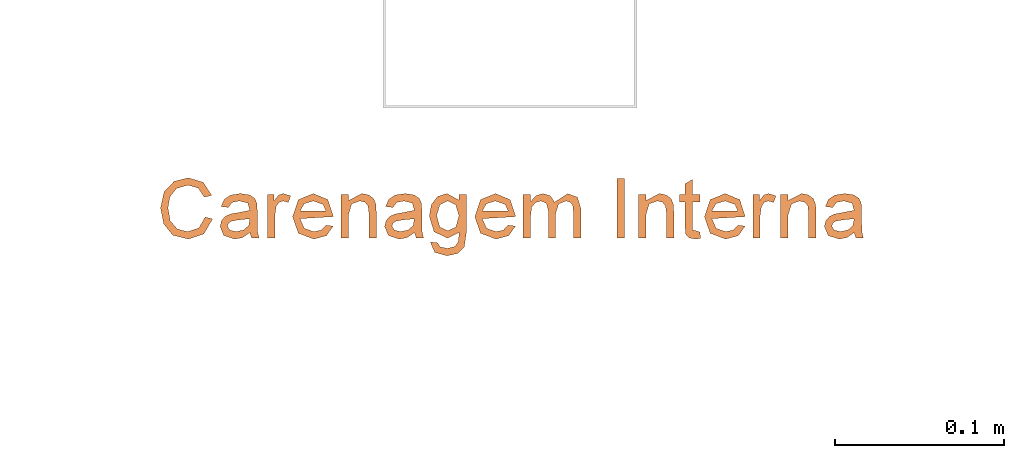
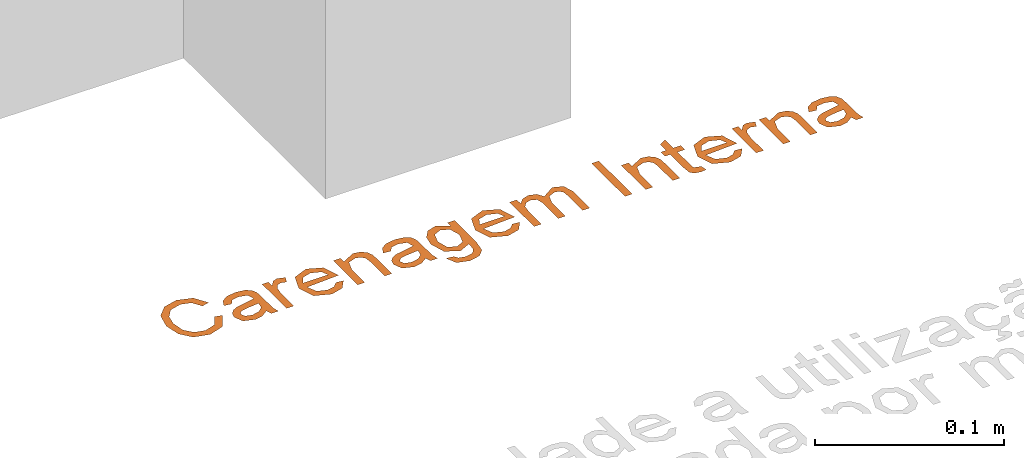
# One storey, part 5 of 5: 1 proxy.
"""IFC2X3 building model written with IfcOpenShell, lengths in millimetres."""

from ifc_helpers import new_model, entity, si_unit, converted_unit, derived_unit, direction, frame, origin, place, context, subcontext, project, spatial, face_set, surface_model, type_object, element, save


model = new_model("IFC2X3")

# Units and contexts
model_context = context("Model", 3, precision=0.01, world=origin(), true_north=direction((6.12303176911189e-17, 1.0)))
body_context = subcontext(model_context, "Body", "Model", "MODEL_VIEW")
ifc_project = project(units=[si_unit("LENGTHUNIT", "METRE", prefix="MILLI"), si_unit("AREAUNIT", "SQUARE_METRE"), si_unit("VOLUMEUNIT", "CUBIC_METRE"), converted_unit("PLANEANGLEUNIT", "DEGREE", entity("IfcRatioMeasure", 0.0174532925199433), si_unit("PLANEANGLEUNIT", "RADIAN"), dimensions=[0, 0, 0, 0, 0, 0, 0]), si_unit("MASSUNIT", "GRAM", prefix="KILO"), derived_unit("MASSDENSITYUNIT", [(si_unit("MASSUNIT", "GRAM", prefix="KILO"), 1), (si_unit("LENGTHUNIT", "METRE"), -3)]), derived_unit("MOMENTOFINERTIAUNIT", [(si_unit("LENGTHUNIT", "METRE"), 4)]), si_unit("TIMEUNIT", "SECOND"), si_unit("FREQUENCYUNIT", "HERTZ"), si_unit("THERMODYNAMICTEMPERATUREUNIT", "DEGREE_CELSIUS"), derived_unit("THERMALTRANSMITTANCEUNIT", [(si_unit("MASSUNIT", "GRAM", prefix="KILO"), 1), (si_unit("THERMODYNAMICTEMPERATUREUNIT", "KELVIN"), -1), (si_unit("TIMEUNIT", "SECOND"), -3)]), derived_unit("VOLUMETRICFLOWRATEUNIT", [(si_unit("LENGTHUNIT", "METRE"), 3), (si_unit("TIMEUNIT", "SECOND"), -1)]), si_unit("ELECTRICCURRENTUNIT", "AMPERE"), si_unit("ELECTRICVOLTAGEUNIT", "VOLT"), si_unit("POWERUNIT", "WATT"), si_unit("FORCEUNIT", "NEWTON", prefix="KILO"), si_unit("ILLUMINANCEUNIT", "LUX"), si_unit("LUMINOUSFLUXUNIT", "LUMEN"), si_unit("LUMINOUSINTENSITYUNIT", "CANDELA"), derived_unit("USERDEFINED", [(si_unit("MASSUNIT", "GRAM", prefix="KILO"), -1), (si_unit("LENGTHUNIT", "METRE"), -2), (si_unit("TIMEUNIT", "SECOND"), 3), (si_unit("LUMINOUSFLUXUNIT", "LUMEN"), 1)]), derived_unit("LINEARVELOCITYUNIT", [(si_unit("LENGTHUNIT", "METRE"), 1), (si_unit("TIMEUNIT", "SECOND"), -1)]), si_unit("PRESSUREUNIT", "PASCAL"), derived_unit("USERDEFINED", [(si_unit("LENGTHUNIT", "METRE"), -2), (si_unit("MASSUNIT", "GRAM", prefix="KILO"), 1), (si_unit("TIMEUNIT", "SECOND"), -2)]), derived_unit("LINEARFORCEUNIT", [(si_unit("MASSUNIT", "GRAM", prefix="KILO"), 1), (si_unit("LENGTHUNIT", "METRE"), 1), (si_unit("TIMEUNIT", "SECOND"), -2), (si_unit("LENGTHUNIT", "METRE"), -1)]), derived_unit("PLANARFORCEUNIT", [(si_unit("MASSUNIT", "GRAM", prefix="KILO"), 1), (si_unit("LENGTHUNIT", "METRE"), 1), (si_unit("TIMEUNIT", "SECOND"), -2), (si_unit("LENGTHUNIT", "METRE"), -2)])], contexts=[model_context])

# Site, building, storey
site_placement = place(None, origin())
site = spatial("IfcSite", under=ifc_project, at=site_placement, Name="Default", CompositionType="ELEMENT")
building_placement = place(site_placement, origin())
building = spatial("IfcBuilding", under=site, at=building_placement, CompositionType="ELEMENT")
storey_placement = place(building_placement, origin())
storey = spatial("IfcBuildingStorey", under=building, at=storey_placement, Name="Vista Principal", CompositionType="ELEMENT", Elevation=0.0)

# Proxy
building_element_proxy_type = type_object("IfcBuildingElementProxyType", Name="Texto do modelo:600mm Arial", PredefinedType="NOTDEFINED")
proxy_placement = place(storey_placement, frame((-10002.6714304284, 5328.07441846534, 0.0)))
element("IfcBuildingElementProxy", 1, at=proxy_placement, inside=storey, type_object=building_element_proxy_type, Name="Texto do modelo:600mm Arial", ObjectType="Texto do modelo:600mm Arial", context=body_context, shape_type="SurfaceModel", body=[
    surface_model("IfcFaceBasedSurfaceModel", [(26.3697814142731, 22.9362161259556, 0.0), (22.6400711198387, 16.4639455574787, 0.0), (15.9145751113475, 14.2836315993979, 0.0), (9.85004042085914, 15.8845314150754, 0.0), (5.72117816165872, 20.7215665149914, 0.0), (4.39496356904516, 28.2925779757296, 0.0), (5.51516424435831, 34.8249359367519, 0.0), (9.39938497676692, 39.8722769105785, 0.0), (16.2750994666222, 41.7521539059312, 0.0), (22.2151674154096, 40.0568310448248, 0.0), (25.8204109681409, 34.653257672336, 0.0), (30.2153745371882, 35.7004950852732, 0.0), (25.24958073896, 43.408849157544, 0.0), (16.446777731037, 46.1471174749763, 0.0), (8.00020712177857, 44.031182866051, 0.0), (2.08159895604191, 37.8378894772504, 0.0), (0.0, 28.2839940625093, 0.0), (1.84124938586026, 18.8846090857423, 0.0), (7.20619514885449, 12.1977406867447, 0.0), (16.3523546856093, 9.88866803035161, 0.0), (25.5543096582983, 12.9402491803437, 0.0), (30.7647449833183, 21.803139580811, 0.0), (52.7395628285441, 13.7342611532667, 0.0), (53.8383037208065, 10.4380384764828, 0.0), (58.2332672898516, 10.4380384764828, 0.0), (57.3577081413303, 14.1334131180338, 0.0), (57.1345263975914, 21.7688039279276, 0.0), (57.1345263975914, 27.236756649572, 0.0), (56.9199285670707, 31.082349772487, 0.0), (55.5722541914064, 34.0652596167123, 0.0), (52.5635926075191, 36.0266837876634, 0.0), (47.2372744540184, 36.8078198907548, 0.0), (41.4388410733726, 35.9236768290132, 0.0), (37.6104157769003, 33.4085902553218, 0.0), (35.7090789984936, 29.1166336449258, 0.0), (40.1040425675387, 28.5672631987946, 0.0), (42.2242691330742, 31.5673408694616, 0.0), (46.6707361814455, 32.4128563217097, 0.0), (51.5292310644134, 31.1424371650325, 0.0), (52.7138110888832, 26.9191518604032, 0.0), (45.0912961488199, 25.4083831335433, 0.0), (41.2886225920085, 24.7474218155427, 0.0), (38.2112897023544, 23.3053243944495, 0.0), (36.0009320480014, 20.7816539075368, 0.0), (35.1597085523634, 17.3051690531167, 0.0), (37.3872340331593, 11.9745589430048, 0.0), (43.7693735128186, 9.88866803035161, 0.0), (48.4776499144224, 10.7556432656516, 0.0), (52.7266869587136, 21.9018545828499, 0.0), (52.0185141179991, 17.8802912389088, 0.0), (49.1514871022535, 15.3351609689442, 0.0), (44.7050200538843, 14.2836315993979, 0.0), (40.8637188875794, 15.2364459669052, 0.0), (39.5546721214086, 17.6141899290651, 0.0), (40.1555460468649, 19.3052208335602, 0.0), (41.8680367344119, 20.464049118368, 0.0), (45.6492505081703, 21.1765139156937, 0.0), (63.1776013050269, 10.4380384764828, 0.0), (67.5725648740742, 10.4380384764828, 0.0), (67.5725648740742, 24.0092052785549, 0.0), (68.2850296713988, 29.1423853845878, 0.0), (69.8687616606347, 31.5458810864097, 0.0), (72.3538045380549, 32.4128563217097, 0.0), (75.4440132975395, 31.5115454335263, 0.0), (76.9118624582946, 35.4515616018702, 0.0), (72.4997310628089, 36.8078198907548, 0.0), (69.752878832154, 35.9580124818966, 0.0), (67.0231944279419, 32.4386080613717, 0.0), (67.0231944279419, 36.2584494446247, 0.0), (63.1776013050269, 36.2584494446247, 0.0), (97.7364359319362, 18.1292247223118, 0.0), (94.9037445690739, 15.2021103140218, 0.0), (90.5946201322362, 14.2836315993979, 0.0), (84.933529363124, 16.2665155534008, 0.0), (82.4055669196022, 21.9748178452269, 0.0), (102.182902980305, 23.1593978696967, 0.0), (98.8480526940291, 33.2283280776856, 0.0), (90.2598475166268, 36.8078198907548, 0.0), (81.4184168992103, 33.2197441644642, 0.0), (78.010603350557, 23.1336461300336, 0.0), (81.3840812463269, 13.369444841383, 0.0), (90.5087810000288, 9.88866803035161, 0.0), (98.0154131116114, 11.905887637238, 0.0), (102.045560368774, 17.5798542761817, 0.0), (82.4055669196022, 26.369781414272, 0.0), (84.8305224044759, 30.7690369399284, 0.0), (90.242679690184, 32.4128563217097, 0.0), (96.0282372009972, 30.3527171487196, 0.0), (97.7879394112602, 26.369781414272, 0.0), (106.577866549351, 10.4380384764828, 0.0), (110.972830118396, 10.4380384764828, 0.0), (110.972830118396, 24.1379639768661, 0.0), (112.977173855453, 30.6874897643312, 0.0), (117.745537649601, 32.4128563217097, 0.0), (120.762783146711, 31.6445960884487, 0.0), (122.552529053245, 29.5887488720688, 0.0), (123.058979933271, 25.7002361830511, 0.0), (123.058979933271, 10.4380384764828, 0.0), (127.453943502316, 10.4380384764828, 0.0), (127.453943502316, 26.2925261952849, 0.0), (127.222177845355, 30.5415632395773, 0.0), (125.904547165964, 33.7734065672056, 0.0), (123.071855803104, 35.9708883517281, 0.0), (118.92153376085, 36.8078198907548, 0.0), (110.972830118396, 32.6532058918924, 0.0), (110.972830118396, 36.2584494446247, 0.0), (106.577866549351, 36.2584494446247, 0.0), (149.978131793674, 13.7342611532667, 0.0), (151.076872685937, 10.4380384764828, 0.0), (155.471836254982, 10.4380384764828, 0.0), (154.59627710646, 14.1334131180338, 0.0), (154.373095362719, 21.7688039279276, 0.0), (154.373095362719, 27.236756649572, 0.0), (154.158497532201, 31.082349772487, 0.0), (152.810823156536, 34.0652596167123, 0.0), (149.802161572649, 36.0266837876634, 0.0), (144.475843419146, 36.8078198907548, 0.0), (138.677410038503, 35.9236768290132, 0.0), (134.848984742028, 33.4085902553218, 0.0), (132.947647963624, 29.1166336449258, 0.0), (137.342611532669, 28.5672631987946, 0.0), (139.462838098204, 31.5673408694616, 0.0), (143.909305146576, 32.4128563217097, 0.0), (148.767800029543, 31.1424371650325, 0.0), (149.952380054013, 26.9191518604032, 0.0), (142.32986511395, 25.4083831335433, 0.0), (138.527191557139, 24.7474218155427, 0.0), (135.449858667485, 23.3053243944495, 0.0), (133.239501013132, 20.7816539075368, 0.0), (132.398277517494, 17.3051690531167, 0.0), (134.625802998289, 11.9745589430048, 0.0), (141.007942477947, 9.88866803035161, 0.0), (145.716218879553, 10.7556432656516, 0.0), (149.965255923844, 21.9018545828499, 0.0), (149.257083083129, 17.8802912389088, 0.0), (146.390056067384, 15.3351609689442, 0.0), (141.943589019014, 14.2836315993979, 0.0), (138.10228785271, 15.2364459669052, 0.0), (136.793241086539, 17.6141899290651, 0.0), (137.394115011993, 19.3052208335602, 0.0), (139.106605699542, 20.464049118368, 0.0), (142.8878194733, 21.1765139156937, 0.0), (159.317429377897, 8.24055669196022, 0.0), (162.008486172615, 2.0558472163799, 0.0), (169.317688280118, 0.0, 0.0), (175.734163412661, 1.45926524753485, 0.0), (179.541128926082, 5.42932511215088, 0.0), (180.742876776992, 13.966026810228, 0.0), (180.742876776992, 36.2584494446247, 0.0), (176.347913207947, 36.2584494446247, 0.0), (176.347913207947, 32.9622267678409, 0.0), (169.266184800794, 36.8078198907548, 0.0), (163.665181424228, 35.1082050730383, 0.0), (160.025602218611, 30.2883377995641, 0.0), (158.768058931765, 23.4770026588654, 0.0), (161.570706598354, 14.2750476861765, 0.0), (169.480782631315, 10.4380384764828, 0.0), (176.347913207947, 13.7342611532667, 0.0), (176.047476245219, 8.60966496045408, 0.0), (173.901497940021, 5.50228837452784, 0.0), (169.403527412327, 4.39496356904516, 0.0), (165.137322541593, 5.37352967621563, 0.0), (163.712392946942, 7.69118624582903, 0.0), (163.163022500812, 23.7774396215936, 0.0), (165.064359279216, 30.236834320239, 0.0), (169.678212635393, 32.4128563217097, 0.0), (174.390780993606, 30.2024986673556, 0.0), (176.347913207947, 23.6486809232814, 0.0), (174.446576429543, 16.9618125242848, 0.0), (169.746883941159, 14.833002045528, 0.0), (165.038607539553, 16.9746883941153, 0.0), (205.413043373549, 18.1292247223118, 0.0), (202.580352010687, 15.2021103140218, 0.0), (198.271227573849, 14.2836315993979, 0.0), (192.610136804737, 16.2665155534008, 0.0), (190.082174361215, 21.9748178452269, 0.0), (209.859510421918, 23.1593978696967, 0.0), (206.52466013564, 33.2283280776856, 0.0), (197.936454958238, 36.8078198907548, 0.0), (189.095024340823, 33.2197441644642, 0.0), (185.687210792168, 23.1336461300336, 0.0), (189.06068868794, 13.369444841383, 0.0), (198.185388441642, 9.88866803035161, 0.0), (205.692020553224, 11.905887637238, 0.0), (209.722167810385, 17.5798542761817, 0.0), (190.082174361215, 26.369781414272, 0.0), (192.507129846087, 30.7690369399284, 0.0), (197.919287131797, 32.4128563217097, 0.0), (203.70484464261, 30.3527171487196, 0.0), (205.464546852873, 26.369781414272, 0.0), (214.254473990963, 10.4380384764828, 0.0), (218.649437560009, 10.4380384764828, 0.0), (218.649437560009, 23.4598348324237, 0.0), (219.318982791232, 28.7046058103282, 0.0), (221.482128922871, 31.4686258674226, 0.0), (224.73543203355, 32.4128563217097, 0.0), (228.070282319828, 30.9965106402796, 0.0), (229.087476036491, 26.738889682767, 0.0), (229.087476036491, 10.4380384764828, 0.0), (233.482439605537, 10.4380384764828, 0.0), (233.482439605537, 25.0135231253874, 0.0), (235.203514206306, 30.6531541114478, 0.0), (239.525514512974, 32.4128563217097, 0.0), (242.036309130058, 31.726143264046, 0.0), (243.512742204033, 29.9192295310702, 0.0), (243.920478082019, 26.2496066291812, 0.0), (243.920478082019, 10.4380384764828, 0.0), (248.315441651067, 10.4380384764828, 0.0), (248.315441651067, 28.1380675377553, 0.0), (246.302514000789, 34.6833013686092, 0.0), (240.55558409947, 36.8078198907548, 0.0), (232.795726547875, 31.700391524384, 0.0), (230.375063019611, 35.4644374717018, 0.0), (225.971515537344, 36.8078198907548, 0.0), (221.670975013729, 35.4901892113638, 0.0), (218.649437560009, 32.0094124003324, 0.0), (218.649437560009, 36.2584494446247, 0.0), (214.254473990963, 36.2584494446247, 0.0), (269.740889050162, 10.4380384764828, 0.0), (274.135852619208, 10.4380384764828, 0.0), (274.135852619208, 45.5977470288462, 0.0), (269.740889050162, 45.5977470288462, 0.0), (282.376409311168, 10.4380384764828, 0.0), (286.771372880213, 10.4380384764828, 0.0), (286.771372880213, 24.1379639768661, 0.0), (288.775716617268, 30.6874897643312, 0.0), (293.544080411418, 32.4128563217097, 0.0), (296.561325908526, 31.6445960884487, 0.0), (298.351071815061, 29.5887488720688, 0.0), (298.857522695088, 25.7002361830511, 0.0), (298.857522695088, 10.4380384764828, 0.0), (303.252486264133, 10.4380384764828, 0.0), (303.252486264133, 26.2925261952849, 0.0), (303.020720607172, 30.5415632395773, 0.0), (301.703089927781, 33.7734065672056, 0.0), (298.870398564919, 35.9708883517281, 0.0), (294.720076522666, 36.8078198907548, 0.0), (286.771372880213, 32.6532058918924, 0.0), (286.771372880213, 36.2584494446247, 0.0), (282.376409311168, 36.2584494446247, 0.0), (318.634858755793, 14.1033694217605, 0.0), (314.471660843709, 15.3823724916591, 0.0), (314.239895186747, 17.6485255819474, 0.0), (314.239895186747, 31.8634858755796, 0.0), (318.634858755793, 31.8634858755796, 0.0), (318.634858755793, 36.2584494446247, 0.0), (314.239895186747, 36.2584494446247, 0.0), (314.239895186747, 45.1170478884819, 0.0), (309.844931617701, 42.5332900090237, 0.0), (309.844931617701, 36.2584494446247, 0.0), (306.548708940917, 36.2584494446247, 0.0), (306.548708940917, 31.8634858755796, 0.0), (309.844931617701, 31.8634858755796, 0.0), (309.844931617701, 17.5197668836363, 0.0), (310.377134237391, 12.5325133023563, 0.0), (312.21409166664, 10.618300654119, 0.0), (315.89659043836, 9.88866803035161, 0.0), (319.184229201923, 10.3092797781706, 0.0), (341.107543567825, 18.1292247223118, 0.0), (338.274852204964, 15.2021103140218, 0.0), (333.965727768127, 14.2836315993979, 0.0), (328.304636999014, 16.2665155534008, 0.0), (325.776674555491, 21.9748178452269, 0.0), (345.554010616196, 23.1593978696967, 0.0), (342.219160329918, 33.2283280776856, 0.0), (333.630955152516, 36.8078198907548, 0.0), (324.7895245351, 33.2197441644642, 0.0), (321.381710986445, 23.1336461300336, 0.0), (324.755188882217, 13.369444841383, 0.0), (333.879888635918, 9.88866803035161, 0.0), (341.386520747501, 11.905887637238, 0.0), (345.416668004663, 17.5798542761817, 0.0), (325.776674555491, 26.369781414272, 0.0), (328.201630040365, 30.7690369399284, 0.0), (333.613787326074, 32.4128563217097, 0.0), (339.399344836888, 30.3527171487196, 0.0), (341.15904704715, 26.369781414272, 0.0), (349.948974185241, 10.4380384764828, 0.0), (354.343937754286, 10.4380384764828, 0.0), (354.343937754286, 24.0092052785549, 0.0), (355.056402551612, 29.1423853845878, 0.0), (356.640134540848, 31.5458810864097, 0.0), (359.125177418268, 32.4128563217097, 0.0), (362.215386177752, 31.5115454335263, 0.0), (363.683235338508, 35.4515616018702, 0.0), (359.271103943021, 36.8078198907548, 0.0), (356.524251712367, 35.9580124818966, 0.0), (353.794567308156, 32.4386080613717, 0.0), (353.794567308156, 36.2584494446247, 0.0), (349.948974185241, 36.2584494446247, 0.0), (366.430087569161, 10.4380384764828, 0.0), (370.825051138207, 10.4380384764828, 0.0), (370.825051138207, 24.1379639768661, 0.0), (372.829394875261, 30.6874897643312, 0.0), (377.597758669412, 32.4128563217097, 0.0), (380.61500416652, 31.6445960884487, 0.0), (382.404750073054, 29.5887488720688, 0.0), (382.911200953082, 25.7002361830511, 0.0), (382.911200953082, 10.4380384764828, 0.0), (387.306164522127, 10.4380384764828, 0.0), (387.306164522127, 26.2925261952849, 0.0), (387.074398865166, 30.5415632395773, 0.0), (385.756768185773, 33.7734065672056, 0.0), (382.924076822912, 35.9708883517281, 0.0), (378.77375478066, 36.8078198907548, 0.0), (370.825051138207, 32.6532058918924, 0.0), (370.825051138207, 36.2584494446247, 0.0), (366.430087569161, 36.2584494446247, 0.0), (409.830352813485, 13.7342611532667, 0.0), (410.929093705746, 10.4380384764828, 0.0), (415.324057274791, 10.4380384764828, 0.0), (414.44849812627, 14.1334131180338, 0.0), (414.22531638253, 21.7688039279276, 0.0), (414.22531638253, 27.236756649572, 0.0), (414.010718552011, 31.082349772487, 0.0), (412.663044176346, 34.0652596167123, 0.0), (409.654382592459, 36.0266837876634, 0.0), (404.328064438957, 36.8078198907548, 0.0), (398.529631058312, 35.9236768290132, 0.0), (394.701205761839, 33.4085902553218, 0.0), (392.799868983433, 29.1166336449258, 0.0), (397.194832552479, 28.5672631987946, 0.0), (399.315059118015, 31.5673408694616, 0.0), (403.761526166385, 32.4128563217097, 0.0), (408.620021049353, 31.1424371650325, 0.0), (409.804601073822, 26.9191518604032, 0.0), (402.18208613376, 25.4083831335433, 0.0), (398.379412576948, 24.7474218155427, 0.0), (395.302079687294, 23.3053243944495, 0.0), (393.09172203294, 20.7816539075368, 0.0), (392.250498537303, 17.3051690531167, 0.0), (394.478024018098, 11.9745589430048, 0.0), (400.860163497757, 9.88866803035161, 0.0), (405.568439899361, 10.7556432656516, 0.0), (409.817476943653, 21.9018545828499, 0.0), (409.109304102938, 17.8802912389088, 0.0), (406.242277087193, 15.3351609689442, 0.0), (401.795810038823, 14.2836315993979, 0.0), (397.954508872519, 15.2364459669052, 0.0), (396.645462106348, 17.6141899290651, 0.0), (397.246336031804, 19.3052208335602, 0.0), (398.958826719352, 20.464049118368, 0.0), (402.74004049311, 21.1765139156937, 0.0)], [face_set([[[0, 1, 2, 3, 4, 5, 6, 7, 8, 9, 10, 11, 12, 13, 14, 15, 16, 17, 18, 19, 20, 21]]]), face_set([[[22, 23, 24, 25, 26, 27, 28, 29, 30, 31, 32, 33, 34, 35, 36, 37, 38, 39, 40, 41, 42, 43, 44, 45, 46, 47], [48, 49, 50, 51, 52, 53, 54, 55, 56]]]), face_set([[[57, 58, 59, 60, 61, 62, 63, 64, 65, 66, 67, 68, 69]]]), face_set([[[70, 71, 72, 73, 74, 75, 76, 77, 78, 79, 80, 81, 82, 83], [84, 85, 86, 87, 88]]]), face_set([[[89, 90, 91, 92, 93, 94, 95, 96, 97, 98, 99, 100, 101, 102, 103, 104, 105, 106]]]), face_set([[[107, 108, 109, 110, 111, 112, 113, 114, 115, 116, 117, 118, 119, 120, 121, 122, 123, 124, 125, 126, 127, 128, 129, 130, 131, 132], [133, 134, 135, 136, 137, 138, 139, 140, 141]]]), face_set([[[142, 143, 144, 145, 146, 147, 148, 149, 150, 151, 152, 153, 154, 155, 156, 157, 158, 159, 160, 161, 162], [163, 164, 165, 166, 167, 168, 169, 170]]]), face_set([[[171, 172, 173, 174, 175, 176, 177, 178, 179, 180, 181, 182, 183, 184], [185, 186, 187, 188, 189]]]), face_set([[[190, 191, 192, 193, 194, 195, 196, 197, 198, 199, 200, 201, 202, 203, 204, 205, 206, 207, 208, 209, 210, 211, 212, 213, 214, 215, 216, 217]]]), face_set([[[218, 219, 220, 221]]]), face_set([[[222, 223, 224, 225, 226, 227, 228, 229, 230, 231, 232, 233, 234, 235, 236, 237, 238, 239]]]), face_set([[[240, 241, 242, 243, 244, 245, 246, 247, 248, 249, 250, 251, 252, 253, 254, 255, 256, 257]]]), face_set([[[258, 259, 260, 261, 262, 263, 264, 265, 266, 267, 268, 269, 270, 271], [272, 273, 274, 275, 276]]]), face_set([[[277, 278, 279, 280, 281, 282, 283, 284, 285, 286, 287, 288, 289]]]), face_set([[[290, 291, 292, 293, 294, 295, 296, 297, 298, 299, 300, 301, 302, 303, 304, 305, 306, 307]]]), face_set([[[308, 309, 310, 311, 312, 313, 314, 315, 316, 317, 318, 319, 320, 321, 322, 323, 324, 325, 326, 327, 328, 329, 330, 331, 332, 333], [334, 335, 336, 337, 338, 339, 340, 341, 342]]])]),
])

save(model, "model.ifc")
